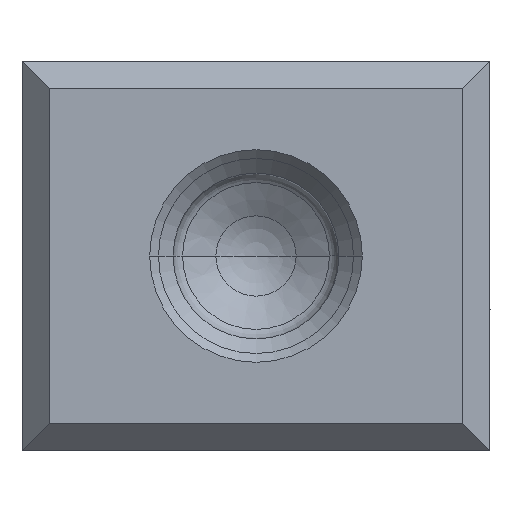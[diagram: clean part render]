
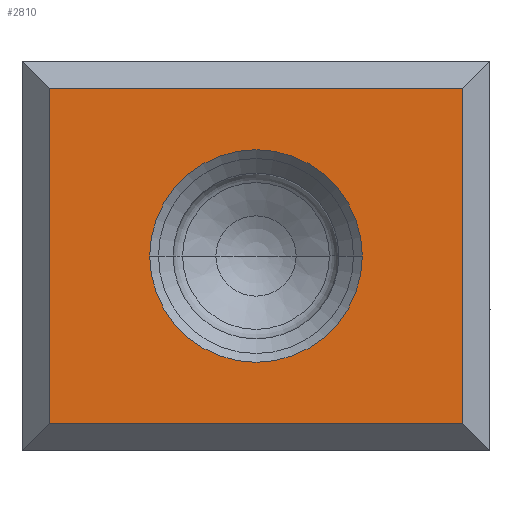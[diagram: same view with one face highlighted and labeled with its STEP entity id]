
A CAD part, left-side view. The second image highlights one B-rep face of the part: STEP entity #2810.
In plain terms, the highlighted planar face has unit normal (-1, 0, 0).
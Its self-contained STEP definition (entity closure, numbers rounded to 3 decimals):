
#534=DIRECTION('',(0.,1.,0.));
#535=VECTOR('',#534,10.6);
#536=CARTESIAN_POINT('',(-22.,0.7,4.3));
#537=LINE('',#536,#535);
#542=DIRECTION('',(0.,0.,-1.));
#543=VECTOR('',#542,8.6);
#544=CARTESIAN_POINT('',(-22.,0.7,4.3));
#545=LINE('',#544,#543);
#546=DIRECTION('',(0.,1.,0.));
#547=VECTOR('',#546,10.6);
#548=CARTESIAN_POINT('',(-22.,0.7,-4.3));
#549=LINE('',#548,#547);
#550=CARTESIAN_POINT('',(-22.,6.,0.));
#551=DIRECTION('',(-1.,0.,0.));
#552=DIRECTION('',(0.,1.,0.));
#553=AXIS2_PLACEMENT_3D('',#550,#551,#552);
#555=CARTESIAN_POINT('',(-22.,6.,0.));
#556=DIRECTION('',(-1.,0.,0.));
#557=DIRECTION('',(0.,-1.,0.));
#558=AXIS2_PLACEMENT_3D('',#555,#556,#557);
#900=DIRECTION('',(0.,0.,-1.));
#901=VECTOR('',#900,8.6);
#902=CARTESIAN_POINT('',(-22.,11.3,4.3));
#903=LINE('',#902,#901);
#1400=CARTESIAN_POINT('',(-22.,0.7,4.3));
#1401=CARTESIAN_POINT('',(-22.,11.3,4.3));
#1402=VERTEX_POINT('',#1400);
#1403=VERTEX_POINT('',#1401);
#1404=CARTESIAN_POINT('',(-22.,0.7,-4.3));
#1405=VERTEX_POINT('',#1404);
#1406=CARTESIAN_POINT('',(-22.,11.3,-4.3));
#1407=VERTEX_POINT('',#1406);
#1408=CARTESIAN_POINT('',(-22.,8.725,0.));
#1409=CARTESIAN_POINT('',(-22.,3.275,0.));
#1410=VERTEX_POINT('',#1408);
#1411=VERTEX_POINT('',#1409);
#2790=CARTESIAN_POINT('',(-22.,12.25,-6.25));
#2791=DIRECTION('',(-1.,0.,0.));
#2792=DIRECTION('',(0.,-1.,0.));
#2793=AXIS2_PLACEMENT_3D('',#2790,#2791,#2792);
#2794=PLANE('',#2793);
#2796=ORIENTED_EDGE('',*,*,#2795,.T.);
#2798=ORIENTED_EDGE('',*,*,#2797,.T.);
#2800=ORIENTED_EDGE('',*,*,#2799,.F.);
#2801=ORIENTED_EDGE('',*,*,#2780,.F.);
#2802=EDGE_LOOP('',(#2796,#2798,#2800,#2801));
#2803=FACE_OUTER_BOUND('',#2802,.F.);
#2805=ORIENTED_EDGE('',*,*,#2804,.T.);
#2807=ORIENTED_EDGE('',*,*,#2806,.T.);
#2808=EDGE_LOOP('',(#2805,#2807));
#2809=FACE_BOUND('',#2808,.F.);
#2810=ADVANCED_FACE('',(#2803,#2809),#2794,.T.);
#554=CIRCLE('',#553,2.725);
#559=CIRCLE('',#558,2.725);
#2780=EDGE_CURVE('',#1402,#1403,#537,.T.);
#2795=EDGE_CURVE('',#1402,#1405,#545,.T.);
#2797=EDGE_CURVE('',#1405,#1407,#549,.T.);
#2799=EDGE_CURVE('',#1403,#1407,#903,.T.);
#2804=EDGE_CURVE('',#1410,#1411,#554,.T.);
#2806=EDGE_CURVE('',#1411,#1410,#559,.T.);
